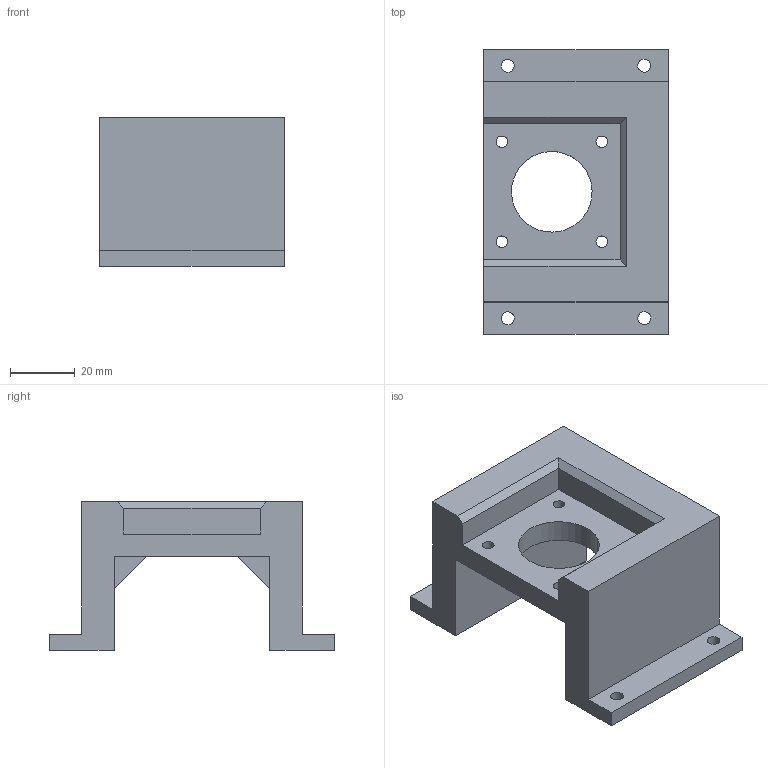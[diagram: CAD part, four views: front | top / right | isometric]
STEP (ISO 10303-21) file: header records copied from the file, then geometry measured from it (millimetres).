
FILE_DESCRIPTION(('CATIA V5 STEP Exchange'),'2;1');
FILE_NAME('C:\Users\user\Documents\Jakob\BAC - Arbeit 1\CAD Modell\CAD-Modell-Step files\rod mount\secondary\secondary rod mount - stepper.stp','2018-12-13T14:07:10+00:00',('none'),('none'),'Version 5-6 Release 2012','CATIA V5 STEP AP203','none');
FILE_SCHEMA(('CONFIG_CONTROL_DESIGN'));
Length unit declared in the file: millimetre
Products named in the file (1): secondary rod mount - stepper
Bounding box: 57.3 x 88.3 x 46 mm (x, y, z)
Volume: 82665.2 mm3; surface area: 23714.6 mm2
Topology: 1 solids, 1 shells, 49 faces, 140 edges, 95 vertices
Faces by surface type: plane 27, cylinder 22
Entity records: 1575 total; most frequent: ORIENTED_EDGE 280, CARTESIAN_POINT 272, DIRECTION 206, EDGE_CURVE 140, VERTEX_POINT 95, VECTOR 94, LINE 94, AXIS2_PLACEMENT_3D 79
